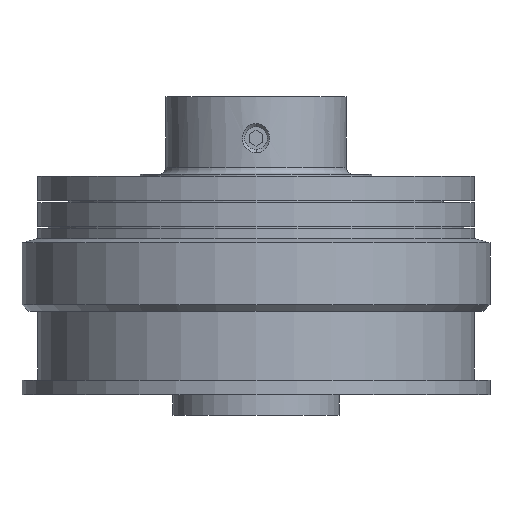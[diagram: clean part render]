
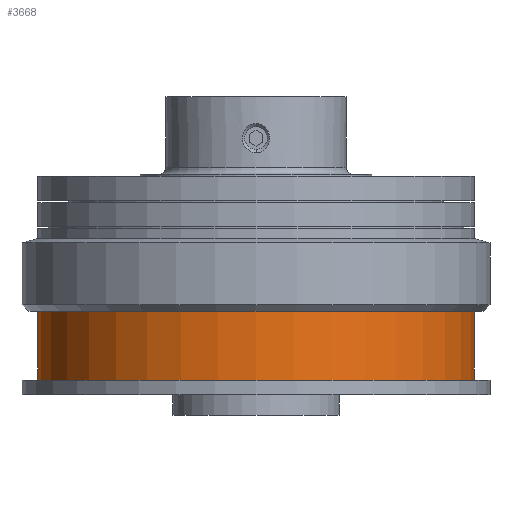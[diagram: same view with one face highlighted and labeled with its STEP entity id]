
A CAD part, front view. The second image highlights one B-rep face of the part: STEP entity #3668.
In plain terms, the highlighted cylindrical face has radius 31.5 mm (diameter 63 mm), a partial arc.
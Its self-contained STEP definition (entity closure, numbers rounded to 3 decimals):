
#633 = CARTESIAN_POINT ( 'NONE',  ( 31.5, 0., 2.1 ) ) ;
#638 = DIRECTION ( 'NONE',  ( 0., 0., 1. ) ) ;
#931 = CARTESIAN_POINT ( 'NONE',  ( -31.5, 0., 2.1 ) ) ;
#960 = DIRECTION ( 'NONE',  ( 0., 0., 1. ) ) ;
#1225 = CARTESIAN_POINT ( 'NONE',  ( 0., 0., 2.1 ) ) ;
#1226 = DIRECTION ( 'NONE',  ( 0., 0., 1. ) ) ;
#1227 = DIRECTION ( 'NONE',  ( 1., 0., 0. ) ) ;
#1986 = CIRCLE ( 'NONE', #2639, 31.5 ) ;
#2395 = CARTESIAN_POINT ( 'NONE',  ( 0., 0., 12. ) ) ;
#2396 = DIRECTION ( 'NONE',  ( 0., 0., -1. ) ) ;
#2397 = DIRECTION ( 'NONE',  ( -1., 0., 0. ) ) ;
#2639 = AXIS2_PLACEMENT_3D ( 'NONE', #2395, #2396, #2397 ) ;
#2747 = CARTESIAN_POINT ( 'NONE',  ( 31.5, 0., 2.1 ) ) ;
#2796 = CARTESIAN_POINT ( 'NONE',  ( -31.5, 0., 12. ) ) ;
#2801 = CARTESIAN_POINT ( 'NONE',  ( 31.5, 0., 12. ) ) ;
#2820 = CARTESIAN_POINT ( 'NONE',  ( -31.5, 0., 2.1 ) ) ;
#3668 = ADVANCED_FACE ( 'NONE', ( #5349 ), #5357, .T. ) ;
#3891 = EDGE_CURVE ( 'NONE', #6623, #6833, #8717, .T. ) ;
#3950 = EDGE_CURVE ( 'NONE', #6875, #6827, #8792, .T. ) ;
#4044 = EDGE_CURVE ( 'NONE', #6875, #6623, #8927, .T. ) ;
#4331 = EDGE_CURVE ( 'NONE', #6833, #6827, #1986, .T. ) ;
#4524 = ORIENTED_EDGE ( 'NONE', *, *, #3950, .F. ) ;
#4525 = ORIENTED_EDGE ( 'NONE', *, *, #4044, .T. ) ;
#4526 = ORIENTED_EDGE ( 'NONE', *, *, #3891, .T. ) ;
#4527 = ORIENTED_EDGE ( 'NONE', *, *, #4331, .T. ) ;
#5016 = AXIS2_PLACEMENT_3D ( 'NONE', #8436, #8413, #8448 ) ;
#5349 = FACE_OUTER_BOUND ( 'NONE', #10443, .T. ) ;
#5357 = CYLINDRICAL_SURFACE ( 'NONE', #5016, 31.5 ) ;
#6623 = VERTEX_POINT ( 'NONE', #2747 ) ;
#6827 = VERTEX_POINT ( 'NONE', #2796 ) ;
#6833 = VERTEX_POINT ( 'NONE', #2801 ) ;
#6875 = VERTEX_POINT ( 'NONE', #2820 ) ;
#8017 = AXIS2_PLACEMENT_3D ( 'NONE', #1225, #1226, #1227 ) ;
#8413 = DIRECTION ( 'NONE',  ( 0., 0., 1. ) ) ;
#8436 = CARTESIAN_POINT ( 'NONE',  ( 0., 0., 2.1 ) ) ;
#8448 = DIRECTION ( 'NONE',  ( 1., 0., 0. ) ) ;
#8717 = LINE ( 'NONE', #633, #8721 ) ;
#8721 = VECTOR ( 'NONE', #638, 1000. ) ;
#8792 = LINE ( 'NONE', #931, #8794 ) ;
#8794 = VECTOR ( 'NONE', #960, 1000. ) ;
#8927 = CIRCLE ( 'NONE', #8017, 31.5 ) ;
#10443 = EDGE_LOOP ( 'NONE', ( #4524, #4525, #4526, #4527 ) ) ;
